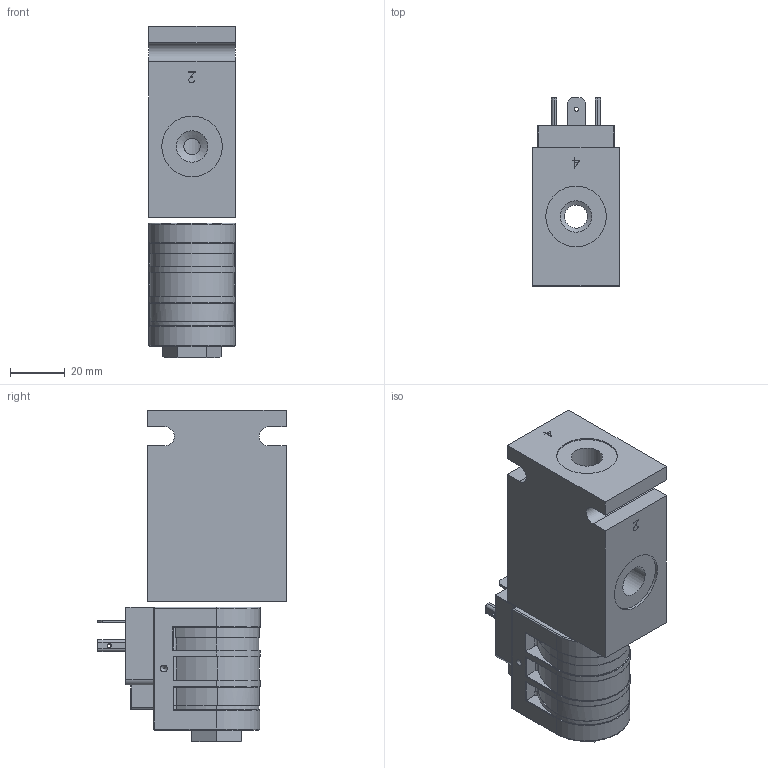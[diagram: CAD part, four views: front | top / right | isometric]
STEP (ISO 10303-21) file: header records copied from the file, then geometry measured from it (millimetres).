
FILE_DESCRIPTION(/* description */ ('Unknown'),/* implementation_level */ '2;1');
FILE_NAME(/* name */ 'UDS4B00',/* time_stamp */ '2017-04-26T09:46:57+01:00',/* author */ ('Unknown'),/* organization */ ('Unknown'),/* preprocessor_version */ 'ST-DEVELOPER v16.7',/* originating_system */ 'DEX',/* authorisation */ $);
FILE_SCHEMA (('AUTOMOTIVE_DESIGN {1 0 10303 214 3 1 1}'));
Length unit declared in the file: millimetre
Products named in the file (12): UDS4B; UDS4B_0; UDS4B_0_0; UDS4B_1; UDS4B_2; B-DMDA4; D-PHC - Copy; PT-EL-HC-TerminalConnectors; PHC_HirschThread; PHC_Disc; PHC_Body; Delta_1_2_nut1
Assembly tree (12 placements, depth 3):
  UDS4B
    UDS4B_0
    UDS4B_0_0
    UDS4B_1
    UDS4B_2
    B-DMDA4
    D-PHC - Copy
      PT-EL-HC-TerminalConnectors
      PHC_HirschThread
      PHC_Disc  x2
      PHC_Body
    Delta_1_2_nut1
Bounding box: 31.77 x 69 x 121.4 mm (x, y, z)
Volume: 145272.2 mm3; surface area: 36325.2 mm2
Topology: 10 solids, 10 shells, 391 faces, 964 edges, 605 vertices
Faces by surface type: plane 188, cylinder 121, cone 64, torus 12, sphere 6
Full cylindrical faces by diameter (mm): 0.2 x4, 0.5 x2, 1 x1, 1.5 x3, 4 x2, 6 x3, 8.5 x1, 9.525 x1, 11.1 x1, 11.151 x1, 11.5 x8, 12.7 x1, 12.76 x1, 13 x1, 13.05 x2, 14.348 x2, 16.48 x1, 22.22 x3, 26.975 x1, 27.18 x4
Entity records: 11964 total; most frequent: CARTESIAN_POINT 2118, DIRECTION 1737, ORIENTED_EDGE 1672, EDGE_CURVE 836, AXIS2_PLACEMENT_3D 693, VERTEX_POINT 578, EDGE_LOOP 518, FACE_BOUND 518
